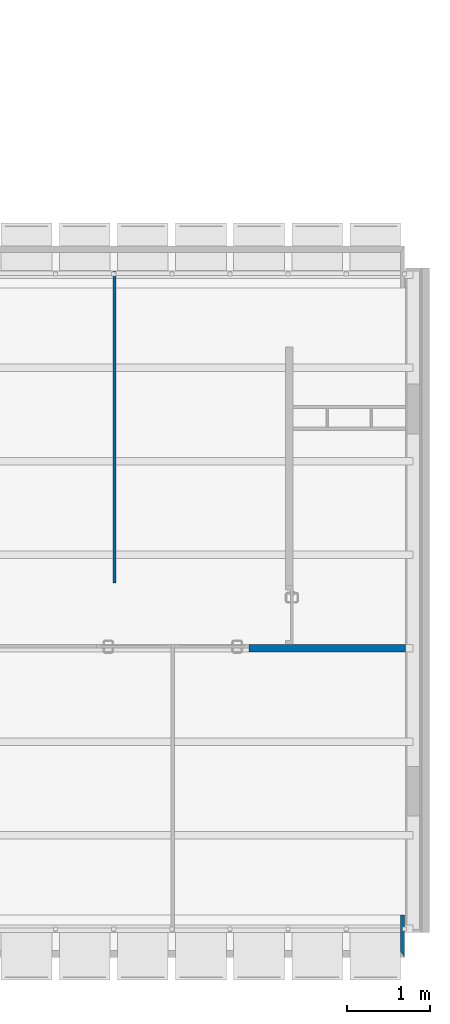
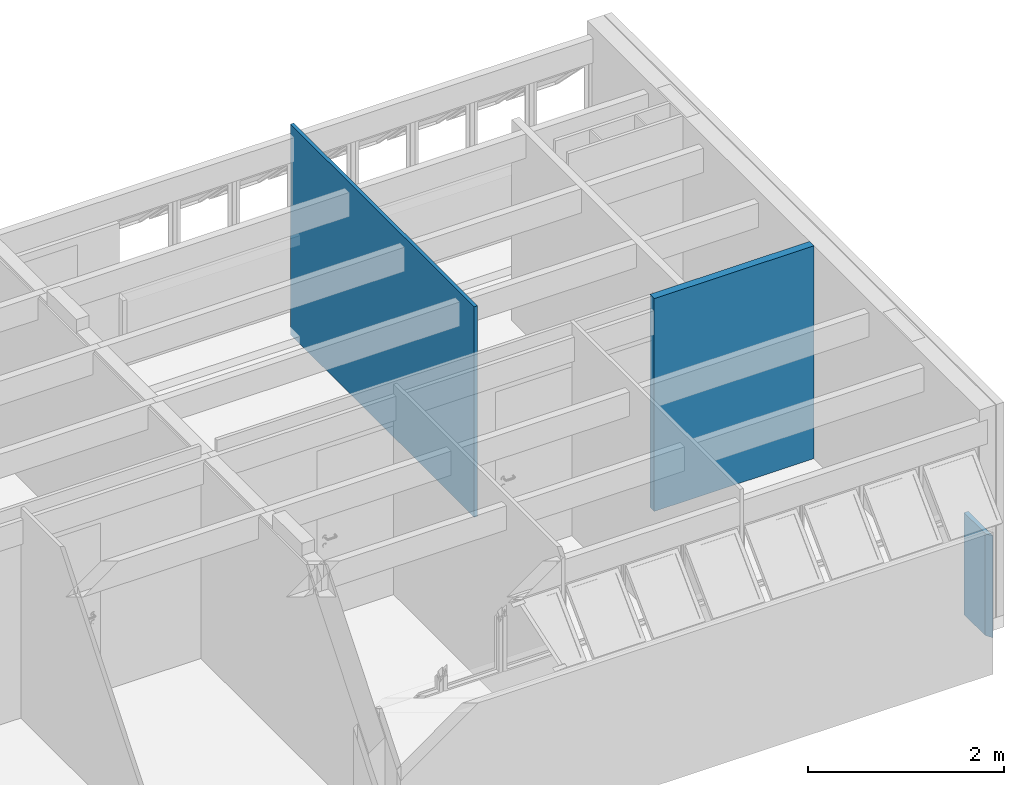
# One storey, part 24 of 41: 3 walls.
"""IFC4 building model written with IfcOpenShell, lengths in millimetres."""

from ifc_helpers import new_model, entity, si_unit, converted_unit, derived_unit, direction, frame, origin_with_axes, place, context, subcontext, project, spatial, line, indexed_curve, outline, extrude, material, layer, layer_set, layer_usage, type_object, element, save


model = new_model("IFC4")

# Units and contexts
model_context = context("Model", 3, precision=0.01, world=origin_with_axes(), true_north=direction((0.0, 1.0)))
body_context = subcontext(model_context, "Body", "Model", "MODEL_VIEW")
ifc_project = project(units=[si_unit("LENGTHUNIT", "METRE", prefix="MILLI"), si_unit("AREAUNIT", "SQUARE_METRE"), si_unit("VOLUMEUNIT", "CUBIC_METRE"), converted_unit("PLANEANGLEUNIT", "DEGREE", entity("IfcPlaneAngleMeasure", 0.0174532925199), si_unit("PLANEANGLEUNIT", "RADIAN"), dimensions=[0, 0, 0, 0, 0, 0, 0]), converted_unit("TIMEUNIT", "Year", entity("IfcTimeMeasure", 31556926.0), si_unit("TIMEUNIT", "SECOND"), dimensions=[0, 0, 1, 0, 0, 0, 0]), si_unit("MASSUNIT", "GRAM", prefix="KILO"), si_unit("THERMODYNAMICTEMPERATUREUNIT", "DEGREE_CELSIUS"), si_unit("LUMINOUSINTENSITYUNIT", "LUMEN"), si_unit("ENERGYUNIT", "JOULE", prefix="MEGA"), derived_unit("THERMALCONDUCTANCEUNIT", [(si_unit("POWERUNIT", "WATT"), 1), (si_unit("LENGTHUNIT", "METRE"), -1), (si_unit("THERMODYNAMICTEMPERATUREUNIT", "KELVIN"), -1)]), derived_unit("SPECIFICHEATCAPACITYUNIT", [(si_unit("ENERGYUNIT", "JOULE"), 1), (si_unit("MASSUNIT", "GRAM", prefix="KILO"), -1), (si_unit("THERMODYNAMICTEMPERATUREUNIT", "KELVIN"), -1)]), derived_unit("MASSDENSITYUNIT", [(si_unit("MASSUNIT", "GRAM", prefix="KILO"), 1), (si_unit("VOLUMEUNIT", "CUBIC_METRE"), -1)])], contexts=[model_context])

# Site, building, storey
site_placement = place(None, origin_with_axes())
site = spatial("IfcSite", under=ifc_project, at=site_placement, Name="Local", CompositionType="ELEMENT")
building_placement = place(site_placement, origin_with_axes())
building = spatial("IfcBuilding", under=site, at=building_placement, Name="Construção", CompositionType="ELEMENT")
storey_placement = place(building_placement, frame((0.0, 0.0, 2650.0), z_axis=(0.0, 0.0, 1.0), x_axis=(1.0, 0.0, 0.0)))
storey = spatial("IfcBuildingStorey", under=building, at=storey_placement, Name="Segundo Pavimento", CompositionType="ELEMENT", Elevation=2650.0)

# Walls
ifc_material_1 = material(Name="GENÉRICO - VEDAÇÃO EXTERNA")
ifc_layer_1 = layer(ifc_material_1, 40.0, ventilated="UNKNOWN", Name="GENÉRICO - VEDAÇÃO EXTERNA")
ifc_layer_set_1 = layer_set([ifc_layer_1], Name="GENÉRICO - VEDAÇÃO EXTERNA 40")
ifc_layer_usage_1 = layer_usage(ifc_layer_set_1, "AXIS2", "POSITIVE", -40.0)
wall_type_1 = type_object("IfcWallType", Name="GENÉRICO - VEDAÇÃO EXTERNA 40", PredefinedType="NOTDEFINED")
wall_1_placement = place(storey_placement, frame((10960.0, 4505.0, 0.0), z_axis=(0.0, 0.0, 1.0), x_axis=(0.0, 1.0, 0.0)))
element("IfcWall", 1, at=wall_1_placement, inside=storey, type_object=wall_type_1, material=ifc_layer_usage_1, Name="APTO6-PAREDE-003", PredefinedType="NOTDEFINED", context=body_context, shape_type="SweptSolid", body=[
    extrude(outline(indexed_curve([(0.0, -40.0), (3750.0, -40.0), (3750.0, 0.0), (0.0, 0.0)], segments=[line(1, 2, 3, 4, 1)])), origin_with_axes(), (0.0, 0.0, 1.0), 2620.0),
])
ifc_layer_2 = layer(ifc_material_1, 90.0, ventilated="UNKNOWN", Name="GENÉRICO - VEDAÇÃO EXTERNA")
ifc_layer_set_2 = layer_set([ifc_layer_2], Name="GENÉRICO - VEDAÇÃO EXTERNA 90")
ifc_layer_usage_2 = layer_usage(ifc_layer_set_2, "AXIS2", "POSITIVE", 0.0)
wall_type_2 = type_object("IfcWallType", Name="GENÉRICO - VEDAÇÃO EXTERNA 90", PredefinedType="NOTDEFINED")
wall_2_placement = place(storey_placement, frame((14480.0, 3765.2195667, 0.0), z_axis=(0.0, 0.0, 1.0), x_axis=(-1.0, 0.0, 0.0)))
element("IfcWall", 2, at=wall_2_placement, inside=storey, type_object=wall_type_2, material=ifc_layer_usage_2, Name="APTO6-PAREDE-019", PredefinedType="NOTDEFINED", context=body_context, shape_type="SweptSolid", body=[
    extrude(outline(indexed_curve([(0.0, 0.0), (1880.0, 0.0), (1879.99807021, 90.0), (0.0, 90.0)], segments=[line(1, 2, 3, 4, 1)])), origin_with_axes(), (0.0, 0.0, 1.0), 2650.0),
])
ifc_material_2 = material(Name="Concreto Armado Moldado in Loco - Estrutural")
ifc_layer_3 = layer(ifc_material_2, 50.0, ventilated="UNKNOWN", Name="Concreto Armado Moldado in Loco - Estrutural")
ifc_layer_set_3 = layer_set([ifc_layer_3], Name="Concreto Armado Moldado in Loco - Estrutural 50")
ifc_layer_usage_3 = layer_usage(ifc_layer_set_3, "AXIS2", "POSITIVE", -50.0)
wall_type_3 = type_object("IfcWallType", Name="Concreto Armado Moldado in Loco - Estrutural 50", PredefinedType="NOTDEFINED")
wall_3_placement = place(storey_placement, frame((14470.0, 510.0, 0.0), z_axis=(0.0, 0.0, 1.0), x_axis=(0.0, -1.0, 0.0)))
element("IfcWall", 3, at=wall_3_placement, inside=storey, type_object=wall_type_3, material=ifc_layer_usage_3, Name="APTO6-PAREDE-002", PredefinedType="NOTDEFINED", context=body_context, shape_type="SweptSolid", body=[
    extrude(outline(indexed_curve([(0.0, -50.0), (430.0, -50.0), (510.0, 0.0), (0.0, 0.0)], segments=[line(1, 2, 3, 4, 1)])), origin_with_axes(), (0.0, 0.0, 1.0), 1270.0),
])

save(model, "model.ifc")
